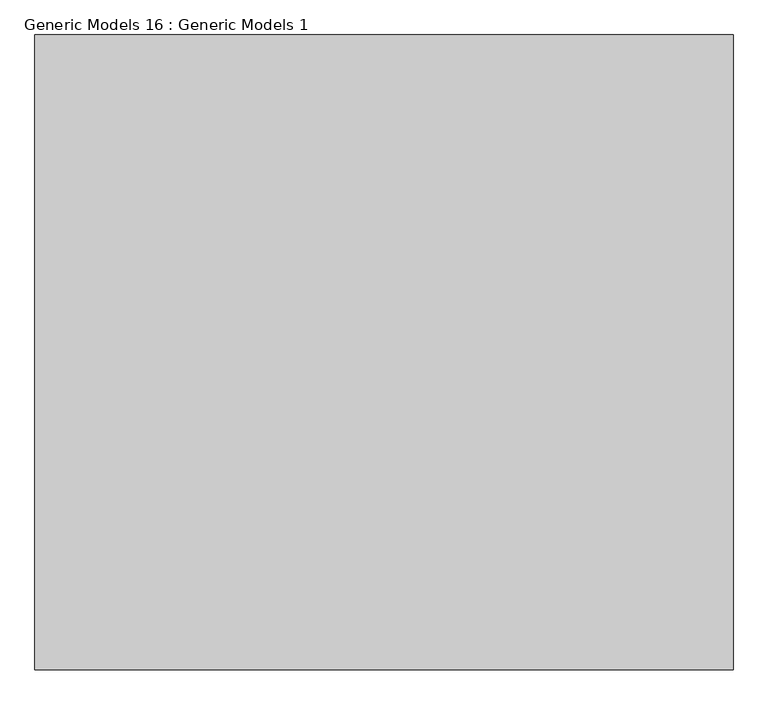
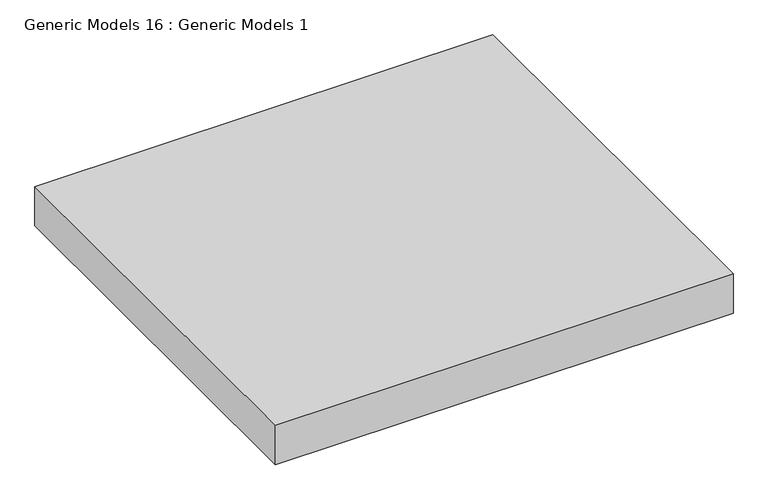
"""IFC4 building model written with IfcOpenShell, lengths in millimetres: proxy geometry, Generic Models 16 : Generic Models 1."""

from ifc_helpers import new_model, si_unit, origin, origin_with_axes, place, context, project, spatial, polyline, outline, extrude, source, transform, mapped, element, save


def generic_models_16_generic_models_1_5fc1a513(model_context):
    return source(origin(), model_context, "Body", "SweptSolid", [
        extrude(outline(polyline([(11337.1851171, -18486.5772826), (11337.1851171, -17486.5772826), (12437.1851171, -17486.5772826), (12437.1851171, -18486.5772826), (11337.1851171, -18486.5772826)])), origin_with_axes(), (0.0, 0.0, 1.0), 100.0),
    ])


if __name__ == "__main__":
    model = new_model("IFC4")
    model_context = context("Model", 3, world=origin())
    ifc_project = project(units=[si_unit("LENGTHUNIT", "METRE", prefix="MILLI")], contexts=[model_context])
    site = spatial("IfcSite", under=ifc_project)
    building = spatial("IfcBuilding", under=site)
    placement = place(None, origin())
    generic_models_16_generic_models_1_shape = generic_models_16_generic_models_1_5fc1a513(model_context)
    element("IfcBuildingElementProxy", 1, Name="Generic Models 16 : Generic Models 1", ObjectType="Generic Models 16 : Generic Models 1", at=placement, inside=building, context=model_context, shape_type="MappedRepresentation", body=[
        mapped(generic_models_16_generic_models_1_shape, transform((0.0, 0.0, 0.0), x_axis=(1.0, 0.0, 0.0), y_axis=(0.0, 1.0, 0.0), z_axis=(0.0, 0.0, 1.0))),
    ])
    save(model, "model.ifc")
